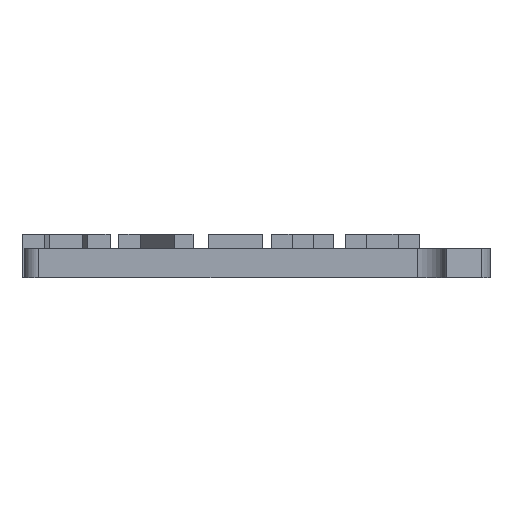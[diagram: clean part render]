
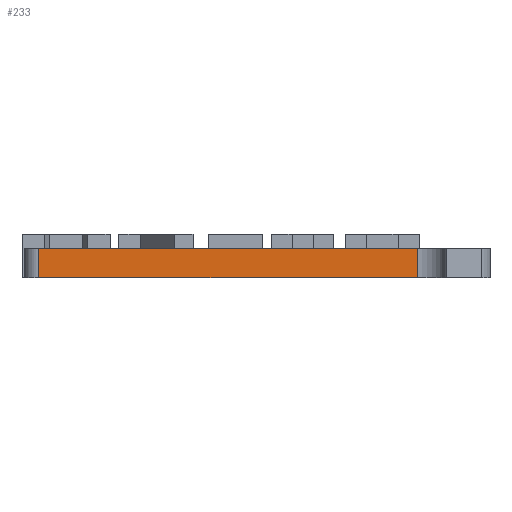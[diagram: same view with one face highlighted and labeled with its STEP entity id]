
A CAD part, front view. The second image highlights one B-rep face of the part: STEP entity #233.
In plain terms, the highlighted planar face has unit normal (0, -1, 0).
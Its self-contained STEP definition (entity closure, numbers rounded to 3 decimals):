
#233=ADVANCED_FACE('',(#469),#470,.T.);
#469=FACE_OUTER_BOUND('',#709,.T.);
#470=PLANE('',#710);
#709=EDGE_LOOP('',(#1383,#1384,#1385,#1386));
#710=AXIS2_PLACEMENT_3D('',#1387,#1388,#1389);
#1383=ORIENTED_EDGE('',*,*,#1778,.T.);
#1384=ORIENTED_EDGE('',*,*,#1799,.T.);
#1385=ORIENTED_EDGE('',*,*,#1786,.F.);
#1386=ORIENTED_EDGE('',*,*,#1800,.T.);
#1387=CARTESIAN_POINT('',(-17.5,-3.0,0.0));
#1388=DIRECTION('',(0.,-1.0,0.0));
#1389=DIRECTION('',(1.0,0.,0.0));
#1778=EDGE_CURVE('',#2225,#2223,#2226,.T.);
#1786=EDGE_CURVE('',#2233,#2235,#2236,.T.);
#1799=EDGE_CURVE('',#2223,#2235,#2254,.T.);
#1800=EDGE_CURVE('',#2233,#2225,#2255,.F.);
#2223=VERTEX_POINT('',#2876);
#2225=VERTEX_POINT('',#2878);
#2226=LINE('',#2879,#2880);
#2233=VERTEX_POINT('',#2891);
#2235=VERTEX_POINT('',#2893);
#2236=LINE('',#2894,#2895);
#2254=LINE('',#2920,#2921);
#2255=LINE('',#2922,#2923);
#2876=CARTESIAN_POINT('',(-5.0,-3.0,0.0));
#2878=CARTESIAN_POINT('',(-31.0,-3.0,0.0));
#2879=CARTESIAN_POINT('',(-17.5,-3.0,0.0));
#2880=VECTOR('',#3179,1.0);
#2891=CARTESIAN_POINT('',(-31.0,-3.0,2.0));
#2893=CARTESIAN_POINT('',(-5.0,-3.0,2.0));
#2894=CARTESIAN_POINT('',(-17.5,-3.0,2.0));
#2895=VECTOR('',#3190,1.0);
#2920=CARTESIAN_POINT('',(-5.0,-3.0,2.0));
#2921=VECTOR('',#3207,1.0);
#2922=CARTESIAN_POINT('',(-31.0,-3.0,0.0));
#2923=VECTOR('',#3208,1.0);
#3179=DIRECTION('',(1.0,0.,0.0));
#3190=DIRECTION('',(1.0,0.,0.0));
#3207=DIRECTION('',(0.0,0.0,1.0));
#3208=DIRECTION('',(0.0,0.0,1.0));
